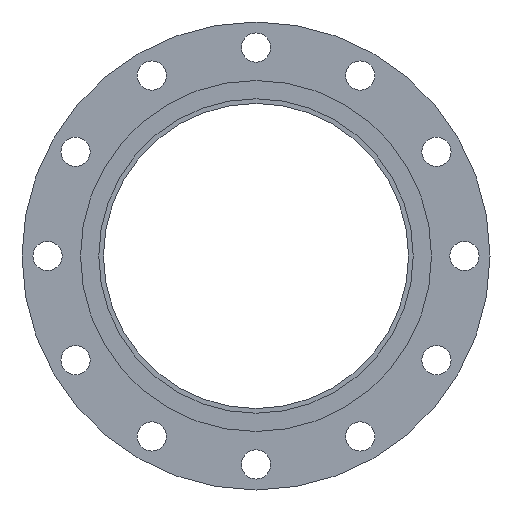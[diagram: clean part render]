
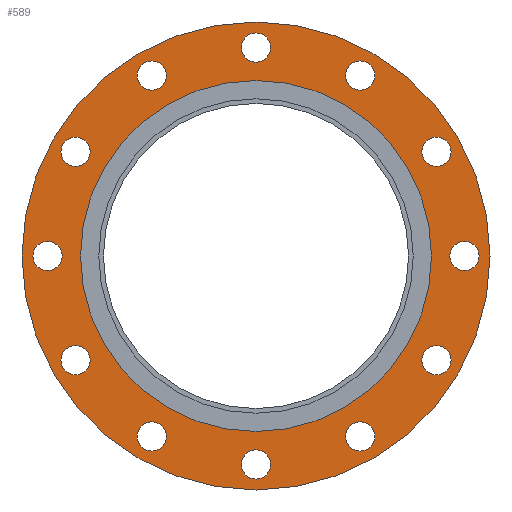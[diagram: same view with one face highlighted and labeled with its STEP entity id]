
A CAD part, left-side view. The second image highlights one B-rep face of the part: STEP entity #589.
In plain terms, the highlighted planar face has unit normal (-1, 0, 0).
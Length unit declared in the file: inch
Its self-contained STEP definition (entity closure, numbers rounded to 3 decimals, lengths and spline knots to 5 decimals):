
#49=FACE_BOUND('',#135,.T.);
#50=FACE_BOUND('',#136,.T.);
#51=FACE_BOUND('',#137,.T.);
#52=FACE_BOUND('',#138,.T.);
#53=FACE_BOUND('',#139,.T.);
#54=FACE_BOUND('',#140,.T.);
#55=FACE_BOUND('',#141,.T.);
#56=FACE_BOUND('',#142,.T.);
#57=FACE_BOUND('',#143,.T.);
#58=FACE_BOUND('',#144,.T.);
#59=FACE_BOUND('',#145,.T.);
#60=FACE_BOUND('',#146,.T.);
#61=FACE_BOUND('',#147,.T.);
#80=PLANE('',#679);
#104=FACE_OUTER_BOUND('',#134,.T.);
#134=EDGE_LOOP('',(#473,#474));
#135=EDGE_LOOP('',(#475));
#136=EDGE_LOOP('',(#476));
#137=EDGE_LOOP('',(#477));
#138=EDGE_LOOP('',(#478));
#139=EDGE_LOOP('',(#479));
#140=EDGE_LOOP('',(#480));
#141=EDGE_LOOP('',(#481));
#142=EDGE_LOOP('',(#482));
#143=EDGE_LOOP('',(#483));
#144=EDGE_LOOP('',(#484));
#145=EDGE_LOOP('',(#485));
#146=EDGE_LOOP('',(#486));
#147=EDGE_LOOP('',(#487,#488));
#205=CIRCLE('',#616,0.5);
#207=CIRCLE('',#619,0.5);
#209=CIRCLE('',#622,0.5);
#211=CIRCLE('',#625,0.5);
#213=CIRCLE('',#628,0.5);
#215=CIRCLE('',#631,0.5);
#217=CIRCLE('',#634,0.5);
#219=CIRCLE('',#637,0.5);
#221=CIRCLE('',#640,0.5);
#223=CIRCLE('',#643,0.5);
#225=CIRCLE('',#646,0.5);
#227=CIRCLE('',#649,0.5);
#246=CIRCLE('',#677,6.);
#247=CIRCLE('',#678,6.);
#248=CIRCLE('',#680,8.);
#249=CIRCLE('',#681,8.);
#257=VERTEX_POINT('',#912);
#259=VERTEX_POINT('',#918);
#261=VERTEX_POINT('',#924);
#263=VERTEX_POINT('',#930);
#265=VERTEX_POINT('',#936);
#267=VERTEX_POINT('',#942);
#269=VERTEX_POINT('',#948);
#271=VERTEX_POINT('',#954);
#273=VERTEX_POINT('',#960);
#275=VERTEX_POINT('',#966);
#277=VERTEX_POINT('',#972);
#279=VERTEX_POINT('',#978);
#298=VERTEX_POINT('',#1030);
#299=VERTEX_POINT('',#1031);
#300=VERTEX_POINT('',#1036);
#301=VERTEX_POINT('',#1037);
#310=EDGE_CURVE('',#257,#257,#205,.T.);
#313=EDGE_CURVE('',#259,#259,#207,.T.);
#316=EDGE_CURVE('',#261,#261,#209,.T.);
#319=EDGE_CURVE('',#263,#263,#211,.T.);
#322=EDGE_CURVE('',#265,#265,#213,.T.);
#325=EDGE_CURVE('',#267,#267,#215,.T.);
#328=EDGE_CURVE('',#269,#269,#217,.T.);
#331=EDGE_CURVE('',#271,#271,#219,.T.);
#334=EDGE_CURVE('',#273,#273,#221,.T.);
#337=EDGE_CURVE('',#275,#275,#223,.T.);
#340=EDGE_CURVE('',#277,#277,#225,.T.);
#343=EDGE_CURVE('',#279,#279,#227,.T.);
#366=EDGE_CURVE('',#298,#299,#246,.T.);
#367=EDGE_CURVE('',#299,#298,#247,.T.);
#369=EDGE_CURVE('',#300,#301,#248,.T.);
#370=EDGE_CURVE('',#301,#300,#249,.T.);
#473=ORIENTED_EDGE('',*,*,#369,.F.);
#474=ORIENTED_EDGE('',*,*,#370,.F.);
#475=ORIENTED_EDGE('',*,*,#310,.T.);
#476=ORIENTED_EDGE('',*,*,#313,.T.);
#477=ORIENTED_EDGE('',*,*,#316,.T.);
#478=ORIENTED_EDGE('',*,*,#319,.T.);
#479=ORIENTED_EDGE('',*,*,#322,.T.);
#480=ORIENTED_EDGE('',*,*,#325,.T.);
#481=ORIENTED_EDGE('',*,*,#328,.T.);
#482=ORIENTED_EDGE('',*,*,#331,.T.);
#483=ORIENTED_EDGE('',*,*,#334,.T.);
#484=ORIENTED_EDGE('',*,*,#337,.T.);
#485=ORIENTED_EDGE('',*,*,#340,.T.);
#486=ORIENTED_EDGE('',*,*,#343,.T.);
#487=ORIENTED_EDGE('',*,*,#366,.T.);
#488=ORIENTED_EDGE('',*,*,#367,.T.);
#589=ADVANCED_FACE('',(#104,#49,#50,#51,#52,#53,#54,#55,#56,#57,#58,#59,
#60,#61),#80,.T.);
#616=AXIS2_PLACEMENT_3D('',#914,#712,#713);
#619=AXIS2_PLACEMENT_3D('',#920,#719,#720);
#622=AXIS2_PLACEMENT_3D('',#926,#726,#727);
#625=AXIS2_PLACEMENT_3D('',#932,#733,#734);
#628=AXIS2_PLACEMENT_3D('',#938,#740,#741);
#631=AXIS2_PLACEMENT_3D('',#944,#747,#748);
#634=AXIS2_PLACEMENT_3D('',#950,#754,#755);
#637=AXIS2_PLACEMENT_3D('',#956,#761,#762);
#640=AXIS2_PLACEMENT_3D('',#962,#768,#769);
#643=AXIS2_PLACEMENT_3D('',#968,#775,#776);
#646=AXIS2_PLACEMENT_3D('',#974,#782,#783);
#649=AXIS2_PLACEMENT_3D('',#980,#789,#790);
#677=AXIS2_PLACEMENT_3D('',#1032,#849,#850);
#678=AXIS2_PLACEMENT_3D('',#1033,#851,#852);
#679=AXIS2_PLACEMENT_3D('',#1035,#854,#855);
#680=AXIS2_PLACEMENT_3D('',#1038,#856,#857);
#681=AXIS2_PLACEMENT_3D('',#1039,#858,#859);
#712=DIRECTION('center_axis',(1.,0.,0.));
#713=DIRECTION('ref_axis',(0.,0.5,0.866));
#719=DIRECTION('center_axis',(1.,0.,0.));
#720=DIRECTION('ref_axis',(0.,0.866,0.5));
#726=DIRECTION('center_axis',(1.,0.,0.));
#727=DIRECTION('ref_axis',(0.,1.,0.));
#733=DIRECTION('center_axis',(1.,0.,0.));
#734=DIRECTION('ref_axis',(0.,0.866,-0.5));
#740=DIRECTION('center_axis',(1.,0.,0.));
#741=DIRECTION('ref_axis',(0.,0.5,-0.866));
#747=DIRECTION('center_axis',(1.,0.,0.));
#748=DIRECTION('ref_axis',(0.,0.,-1.));
#754=DIRECTION('center_axis',(1.,0.,0.));
#755=DIRECTION('ref_axis',(0.,-0.5,-0.866));
#761=DIRECTION('center_axis',(1.,0.,0.));
#762=DIRECTION('ref_axis',(0.,-0.866,-0.5));
#768=DIRECTION('center_axis',(1.,0.,0.));
#769=DIRECTION('ref_axis',(0.,-1.,0.));
#775=DIRECTION('center_axis',(1.,0.,0.));
#776=DIRECTION('ref_axis',(0.,-0.866,0.5));
#782=DIRECTION('center_axis',(1.,0.,0.));
#783=DIRECTION('ref_axis',(0.,-0.5,0.866));
#789=DIRECTION('center_axis',(1.,0.,0.));
#790=DIRECTION('ref_axis',(0.,0.,1.));
#849=DIRECTION('center_axis',(1.,0.,0.));
#850=DIRECTION('ref_axis',(0.,0.,-1.));
#851=DIRECTION('center_axis',(1.,0.,0.));
#852=DIRECTION('ref_axis',(0.,0.,-1.));
#854=DIRECTION('center_axis',(-1.,0.,0.));
#855=DIRECTION('ref_axis',(0.,0.,1.));
#856=DIRECTION('center_axis',(1.,0.,0.));
#857=DIRECTION('ref_axis',(0.,0.,-1.));
#858=DIRECTION('center_axis',(1.,0.,0.));
#859=DIRECTION('ref_axis',(0.,0.,-1.));
#912=CARTESIAN_POINT('',(-1.1825,5.92043,-3.99551));
#914=CARTESIAN_POINT('Origin',(-1.1825,6.17043,-3.5625));
#918=CARTESIAN_POINT('',(-1.1825,3.12949,-6.42043));
#920=CARTESIAN_POINT('Origin',(-1.1825,3.5625,-6.17043));
#924=CARTESIAN_POINT('',(-1.1825,-0.5,-7.125));
#926=CARTESIAN_POINT('Origin',(-1.1825,0.,-7.125));
#930=CARTESIAN_POINT('',(-1.1825,-3.99551,-5.92043));
#932=CARTESIAN_POINT('Origin',(-1.1825,-3.5625,-6.17043));
#936=CARTESIAN_POINT('',(-1.1825,-6.42043,-3.12949));
#938=CARTESIAN_POINT('Origin',(-1.1825,-6.17043,-3.5625));
#942=CARTESIAN_POINT('',(-1.1825,-7.125,0.5));
#944=CARTESIAN_POINT('Origin',(-1.1825,-7.125,0.));
#948=CARTESIAN_POINT('',(-1.1825,-5.92043,3.99551));
#950=CARTESIAN_POINT('Origin',(-1.1825,-6.17043,3.5625));
#954=CARTESIAN_POINT('',(-1.1825,-3.12949,6.42043));
#956=CARTESIAN_POINT('Origin',(-1.1825,-3.5625,6.17043));
#960=CARTESIAN_POINT('',(-1.1825,0.5,7.125));
#962=CARTESIAN_POINT('Origin',(-1.1825,0.,7.125));
#966=CARTESIAN_POINT('',(-1.1825,3.99551,5.92043));
#968=CARTESIAN_POINT('Origin',(-1.1825,3.5625,6.17043));
#972=CARTESIAN_POINT('',(-1.1825,6.42043,3.12949));
#974=CARTESIAN_POINT('Origin',(-1.1825,6.17043,3.5625));
#978=CARTESIAN_POINT('',(-1.1825,7.125,-0.5));
#980=CARTESIAN_POINT('Origin',(-1.1825,7.125,0.));
#1030=CARTESIAN_POINT('',(-1.1825,6.,0.));
#1031=CARTESIAN_POINT('',(-1.1825,-6.,0.));
#1032=CARTESIAN_POINT('Origin',(-1.1825,0.,0.));
#1033=CARTESIAN_POINT('Origin',(-1.1825,0.,0.));
#1035=CARTESIAN_POINT('Origin',(-1.1825,8.,0.));
#1036=CARTESIAN_POINT('',(-1.1825,8.,0.));
#1037=CARTESIAN_POINT('',(-1.1825,-8.,0.));
#1038=CARTESIAN_POINT('Origin',(-1.1825,0.,0.));
#1039=CARTESIAN_POINT('Origin',(-1.1825,0.,0.));
